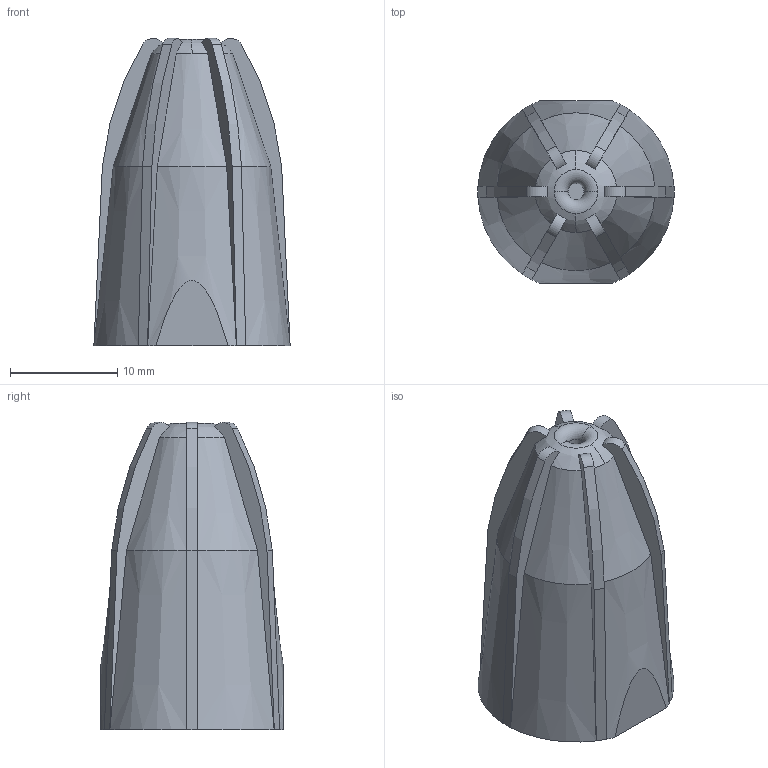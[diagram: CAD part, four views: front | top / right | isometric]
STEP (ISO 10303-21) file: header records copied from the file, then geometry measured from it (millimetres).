
FILE_DESCRIPTION (( 'STEP AP214' ), '1' );
FILE_NAME ('Silvent 2120L.STEP', '2014-01-29T13:35:40', ( 'silvpesv' ), ( '' ), 'SwSTEP 2.0', 'SolidWorks 2013', '' );
FILE_SCHEMA (( 'AUTOMOTIVE_DESIGN' ));
Length unit declared in the file: millimetre
Products named in the file (1): Silvent 2120L
Bounding box: 18.3 x 17 x 28.65 mm (x, y, z)
Volume: 3145.1 mm3; surface area: 2501.8 mm2
Topology: 1 solids, 1 shells, 55 faces, 154 edges, 102 vertices
Faces by surface type: plane 23, cylinder 16, cone 12, bspline 2, torus 2
Entity records: 2036 total; most frequent: CARTESIAN_POINT 622, ORIENTED_EDGE 308, DIRECTION 276, EDGE_CURVE 154, AXIS2_PLACEMENT_3D 114, VERTEX_POINT 102, CIRCLE 60, EDGE_LOOP 56
